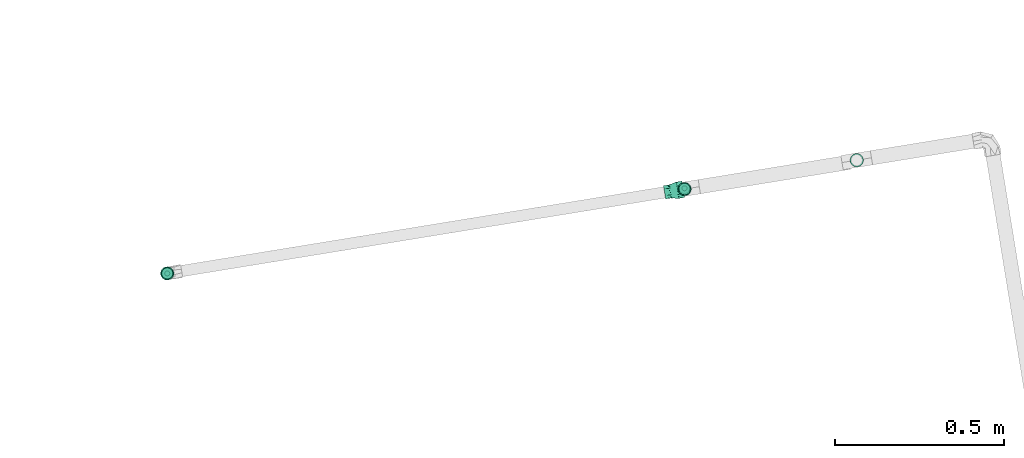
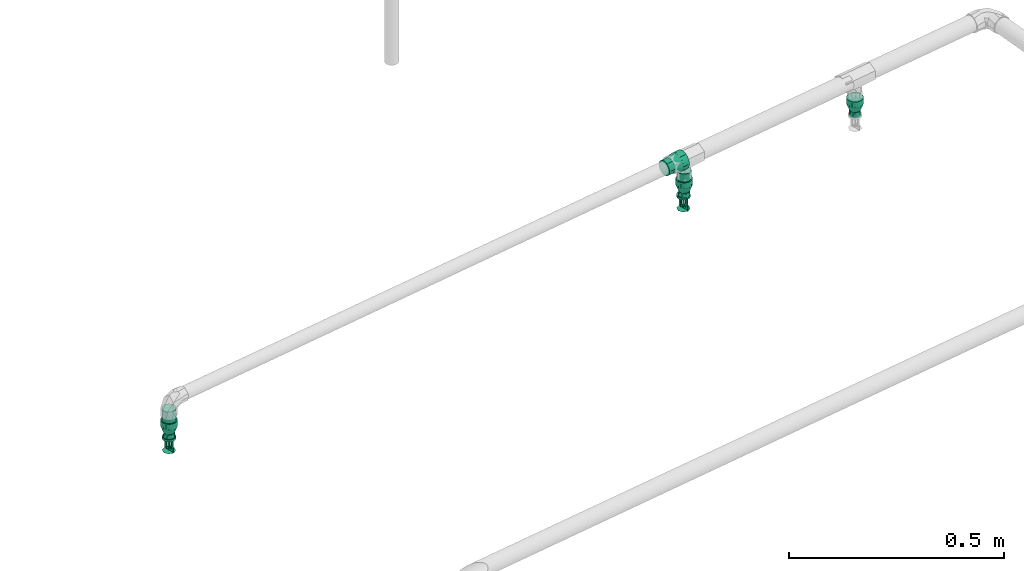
# One storey, part 32 of 46: 4 flow fittings, 2 flow segments, 2 flow terminals.
"""IFC2X3 building model written with IfcOpenShell, lengths in millimetres."""

from ifc_helpers import new_model, entity, si_unit, converted_unit, derived_unit, direction, frame, origin, origin_with_axes, origin_2d_with_axis, place, context, subcontext, project, spatial, circle, extrude, faceted_brep, source, transform, mapped, material, type_object, element, save


model = new_model("IFC2X3")

# Units and contexts
model_context = context("Model", 3, precision=0.01, world=origin(), true_north=direction((6.12323399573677e-17, 1.0)))
plan_context = context("Plan", 3, precision=1e-05, world=origin_with_axes())
body_context = subcontext(model_context, "Body", "Model", "MODEL_VIEW")
ifc_project = project(units=[converted_unit("PLANEANGLEUNIT", "DEGREE", entity("IfcPositiveLengthMeasure", 0.0174532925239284), si_unit("PLANEANGLEUNIT", "RADIAN"), dimensions=[0, 0, 0, 0, 0, 0, 0]), si_unit("AREAUNIT", "SQUARE_METRE"), si_unit("LENGTHUNIT", "METRE", prefix="MILLI"), si_unit("MASSUNIT", "GRAM", prefix="KILO"), si_unit("POWERUNIT", "WATT"), si_unit("PRESSUREUNIT", "PASCAL", prefix="KILO"), si_unit("FORCEUNIT", "NEWTON", prefix="KILO"), si_unit("ELECTRICVOLTAGEUNIT", "VOLT"), si_unit("ELECTRICCURRENTUNIT", "AMPERE"), si_unit("THERMODYNAMICTEMPERATUREUNIT", "DEGREE_CELSIUS"), si_unit("TIMEUNIT", "SECOND"), si_unit("VOLUMEUNIT", "CUBIC_METRE"), derived_unit("LINEARVELOCITYUNIT", [(si_unit("LENGTHUNIT", "METRE"), 1), (si_unit("TIMEUNIT", "SECOND"), -1)]), derived_unit("VOLUMETRICFLOWRATEUNIT", [(si_unit("VOLUMEUNIT", "CUBIC_METRE"), 1), (si_unit("TIMEUNIT", "SECOND"), -1)]), derived_unit("THERMALTRANSMITTANCEUNIT", [(si_unit("POWERUNIT", "WATT"), 1), (si_unit("THERMODYNAMICTEMPERATUREUNIT", "KELVIN"), -1), (si_unit("AREAUNIT", "SQUARE_METRE"), -1)]), derived_unit("SOUNDPRESSUREUNIT", [(si_unit("PRESSUREUNIT", "PASCAL"), 1)])], contexts=[model_context, plan_context])

# Site, building, storey
site_placement = place(None, frame((-3.09682673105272e-06, 1.93776733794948e-05, 0.0), z_axis=(0.0, 0.0, 1.0), x_axis=(-0.160806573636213, 0.986985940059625, 0.0)))
site = spatial("IfcSite", under=ifc_project, at=site_placement, Name="Default", CompositionType="ELEMENT")
building_placement = place(site_placement, frame((0.0, 0.0, 0.0), z_axis=(0.0, 0.0, 1.0), x_axis=(1.0, -2.77555756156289e-17, 0.0)))
building = spatial("IfcBuilding", under=site, at=building_placement, Name="Bygning (endres i Project Information)", CompositionType="ELEMENT")
storey_placement = place(building_placement, frame((0.0, 0.0, 51360.0000000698), z_axis=(0.0, 0.0, 1.0), x_axis=(1.0, -2.77555756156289e-17, 0.0)))
storey = spatial("IfcBuildingStorey", under=building, at=storey_placement, Name="H01-Nivå D+0,36", CompositionType="ELEMENT", Elevation=51360.0000000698)

# Flow fittings
ifc_material = material(Name="3320.001")
pipe_fitting_type_1 = type_object("IfcPipeFittingType", Name="RS_53_PIF_UN_Reducing-Socket-EN10241_MC_gen:RS_53_PIF_UN_Reducing-Socket-EN10241_MC_gen", PredefinedType="NOTDEFINED", material=ifc_material)
shared_shape_1 = source(origin(), body_context, "Body", "Brep", [
    faceted_brep([(0.0, 5.11167614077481, 19.0770350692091), (0.0, 9.87500000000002, 17.1040017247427), (0.0, 13.9653589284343, 13.9653589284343), (0.0, 17.1040017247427, 9.87499999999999), (0.0, 19.0770350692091, 5.11167614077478), (0.0, 19.75, 0.0), (0.0, 19.0770350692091, -5.1116761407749), (0.0, 17.1040017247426, -9.8750000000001), (0.0, 13.9653589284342, -13.9653589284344), (0.0, 9.87499999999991, -17.1040017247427), (0.0, 5.11167614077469, -19.0770350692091), (0.0, 0.0, -19.75), (0.0, -5.11167614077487, -19.0770350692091), (0.0, -9.87500000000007, -17.1040017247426), (0.0, -13.9653589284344, -13.9653589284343), (0.0, -17.1040017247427, -9.87499999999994), (0.0, -19.0770350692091, -5.11167614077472), (0.0, -19.75, 0.0), (0.0, -19.0770350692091, 5.11167614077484), (0.0, -17.1040017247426, 9.87500000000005), (0.0, -13.9653589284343, 13.9653589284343), (0.0, -9.87499999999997, 17.1040017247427), (0.0, -5.11167614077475, 19.0770350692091), (0.0, 0.0, 19.75), (17.0, -6.65118285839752, -18.277344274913), (17.0, -15.1289479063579, -12.6955675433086), (17.0, -16.8438814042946, -9.72538978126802), (17.0, -18.5588149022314, -6.7552120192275), (17.0, -9.87413131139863, -17.1045032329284), (17.0, -12.5015396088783, -14.9000353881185), (17.0, -19.1544074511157, -3.37760600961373), (17.0, -3.42823440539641, -19.4501853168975), (17.0, 3.43119786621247, -19.4496627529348), (17.0, 0.0014817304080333, -19.4499240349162), (17.0, -19.75, 0.0), (17.0, 6.65396758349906, -18.2763306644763), (17.0, 9.87673730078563, -17.1029985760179), (17.0, 18.5598439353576, -6.75238425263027), (17.0, 16.8453630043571, -9.7228232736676), (17.0, 15.1308820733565, -12.6932622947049), (17.0, 12.5038096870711, -14.8981304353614), (17.0, 19.75, 0.0), (17.0, 15.1308820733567, 12.6932622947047), (17.0, 16.8453630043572, 9.72282327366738), (17.0, 18.5598439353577, 6.75238425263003), (17.0, 9.87673730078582, 17.1029985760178), (17.0, 12.5038096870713, 14.8981304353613), (17.0, 3.43119786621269, 19.4496627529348), (17.0, 6.65396758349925, 18.2763306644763), (17.0, -3.4282344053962, 19.4501853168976), (17.0, 0.00148173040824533, 19.4499240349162), (17.0, -15.1289479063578, 12.6955675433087), (17.0, -6.65118285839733, 18.277344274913), (17.0, -9.87413131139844, 17.1045032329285), (17.0, -12.5015396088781, 14.9000353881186), (17.0, -19.1544074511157, 3.37760600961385), (17.0, -18.5588149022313, 6.75521201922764), (17.0, -16.8438814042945, 9.72538978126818), (34.0, 13.5000000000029, 0.0), (34.0, 12.6868795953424, -4.61444320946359), (34.0, -4.54589529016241, -12.4935366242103), (34.0, -2.34276817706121, -13.2951659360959), (34.0, 6.75195505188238, -11.6902139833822), (34.0, 0.00166747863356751, -13.2948718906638), (34.0, 2.34610313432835, -13.2945778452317), (34.0, 10.3432928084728, -8.67561489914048), (34.0, 8.54762393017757, -10.1829144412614), (34.0, 4.54902909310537, -12.492395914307), (34.0, 11.5150862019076, -6.64502905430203), (34.0, -6.74902240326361, -11.6919073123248), (34.0, -13.4999999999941, 0.0), (34.0, -13.0928608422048, -2.30881275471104), (34.0, -10.3411162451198, -8.6782091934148), (34.0, -8.54506932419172, -10.1850582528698), (34.0, -12.6857216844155, -4.61762550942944), (34.0, -11.5134189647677, -6.64791735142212), (34.0, -13.0928608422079, 2.30881275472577), (34.0, -12.6857216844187, 4.6176255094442), (34.0, 2.34610313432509, 13.2945778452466), (34.0, 4.54902909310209, 12.4923959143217), (34.0, -10.3411162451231, 8.67820919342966), (34.0, 0.00166747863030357, 13.2948718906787), (34.0, -6.74902240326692, 11.6919073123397), (34.0, -8.54506932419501, 10.1850582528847), (34.0, -11.5134189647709, 6.64791735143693), (34.0, -2.34276817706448, 13.2951659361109), (34.0, -4.5458952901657, 12.4935366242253), (34.0, 12.6868795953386, 4.61444320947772), (34.0, 11.5150862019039, 6.64502905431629), (34.0, 10.3432928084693, 8.67561489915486), (34.0, 6.7519550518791, 11.6902139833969), (34.0, 8.54762393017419, 10.1829144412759), (51.0, 3.49405710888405, -13.0399986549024), (51.0, 6.75000000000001, -11.6913429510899), (51.0, 9.5459415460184, -9.54594154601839), (51.0, 11.6913429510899, -6.74999999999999), (51.0, 13.0399986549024, -3.49405710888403), (51.0, 13.5, 0.0), (51.0, 13.0399986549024, 3.49405710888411), (51.0, 11.6913429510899, 6.75000000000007), (51.0, 9.54594154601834, 9.54594154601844), (51.0, 6.74999999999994, 11.69134295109), (51.0, 3.49405710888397, 13.0399986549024), (51.0, 0.0, 13.5), (51.0, -3.49405710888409, 13.0399986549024), (51.0, -6.75000000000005, 11.6913429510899), (51.0, -9.54594154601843, 9.54594154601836), (51.0, -11.6913429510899, 6.74999999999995), (51.0, -13.0399986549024, 3.49405710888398), (51.0, -13.5, 0.0), (51.0, -13.0399986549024, -3.49405710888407), (51.0, -11.6913429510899, -6.75000000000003), (51.0, -9.54594154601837, -9.54594154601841), (51.0, -6.74999999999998, -11.6913429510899), (51.0, -3.49405710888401, -13.0399986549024), (51.0, 0.0, -13.5)], [[[0, 1, 2, 3, 4, 5, 6, 7, 8, 9, 10, 11, 12, 13, 14, 15, 16, 17, 18, 19, 20, 21, 22, 23]], [[24, 13, 12]], [[15, 14, 25]], [[15, 25, 26, 27]], [[28, 29, 13]], [[16, 27, 30]], [[30, 17, 16]], [[15, 27, 16]], [[12, 31, 24]], [[25, 14, 29]], [[11, 32, 33, 31]], [[24, 28, 13]], [[13, 29, 14]], [[30, 34, 17]], [[32, 11, 10]], [[35, 9, 36]], [[7, 37, 38, 39]], [[9, 35, 10]], [[7, 6, 37]], [[8, 39, 40]], [[32, 10, 35]], [[7, 39, 8]], [[40, 36, 9]], [[6, 41, 37]], [[6, 5, 41]], [[11, 31, 12]], [[40, 9, 8]], [[41, 5, 4]], [[3, 2, 42]], [[3, 42, 43, 44]], [[45, 46, 1]], [[44, 41, 4]], [[0, 47, 48]], [[42, 2, 46]], [[23, 49, 50, 47]], [[1, 46, 2]], [[49, 23, 22]], [[19, 51, 20]], [[52, 21, 53]], [[3, 44, 4]], [[48, 45, 1]], [[54, 53, 21]], [[17, 34, 55]], [[21, 52, 22]], [[20, 51, 54]], [[49, 22, 52]], [[48, 1, 0]], [[17, 55, 18]], [[56, 19, 18]], [[18, 55, 56]], [[54, 21, 20]], [[57, 51, 19, 56]], [[23, 47, 0]], [[41, 58, 59]], [[60, 31, 61]], [[40, 62, 36]], [[63, 32, 64]], [[65, 39, 38]], [[64, 32, 35]], [[61, 33, 63]], [[37, 41, 59]], [[62, 40, 66]], [[40, 39, 66]], [[35, 36, 67]], [[65, 38, 68]], [[37, 68, 38]], [[64, 35, 67]], [[61, 31, 33]], [[69, 28, 24]], [[69, 24, 60]], [[70, 30, 71]], [[72, 29, 73]], [[30, 70, 34]], [[74, 27, 26]], [[68, 37, 59]], [[72, 25, 29]], [[27, 74, 71]], [[31, 60, 24]], [[29, 28, 73]], [[75, 26, 25]], [[67, 36, 62]], [[66, 39, 65]], [[27, 71, 30]], [[74, 26, 75]], [[73, 28, 69]], [[63, 33, 32]], [[75, 25, 72]], [[56, 76, 77]], [[48, 78, 79]], [[54, 51, 80]], [[81, 47, 50]], [[57, 56, 77]], [[52, 53, 82]], [[82, 53, 83]], [[55, 70, 76]], [[70, 55, 34]], [[84, 51, 57]], [[50, 85, 81]], [[56, 55, 76]], [[86, 49, 52]], [[83, 53, 54]], [[81, 78, 47]], [[48, 47, 78]], [[80, 51, 84]], [[49, 85, 50]], [[87, 44, 88]], [[87, 58, 41]], [[43, 42, 89]], [[57, 77, 84]], [[46, 45, 90]], [[85, 49, 86]], [[88, 44, 43]], [[54, 80, 83]], [[91, 42, 46]], [[52, 82, 86]], [[89, 42, 91]], [[87, 41, 44]], [[90, 45, 79]], [[46, 90, 91]], [[79, 45, 48]], [[43, 89, 88]], [[92, 93, 94, 95, 96, 97, 98, 99, 100, 101, 102, 103, 104, 105, 106, 107, 108, 109, 110, 111, 112, 113, 114, 115]], [[58, 97, 96]], [[95, 94, 65]], [[95, 65, 68, 59]], [[62, 66, 93]], [[59, 58, 96]], [[92, 64, 67]], [[65, 94, 66]], [[115, 61, 63, 64]], [[93, 66, 94]], [[67, 93, 92]], [[67, 62, 93]], [[95, 59, 96]], [[114, 61, 115]], [[111, 110, 74]], [[73, 113, 112]], [[109, 71, 110]], [[111, 74, 75, 72]], [[109, 70, 71]], [[60, 61, 114]], [[113, 69, 60]], [[111, 72, 112]], [[113, 60, 114]], [[112, 72, 73]], [[115, 64, 92]], [[71, 74, 110]], [[73, 69, 113]], [[86, 105, 104]], [[107, 106, 80]], [[107, 80, 84, 77]], [[82, 83, 105]], [[108, 77, 76]], [[76, 70, 109]], [[76, 109, 108]], [[104, 85, 86]], [[80, 106, 83]], [[103, 78, 81, 85]], [[91, 101, 100]], [[105, 83, 106]], [[86, 82, 105]], [[78, 103, 102]], [[79, 101, 90]], [[99, 87, 88, 89]], [[101, 79, 102]], [[99, 98, 87]], [[100, 89, 91]], [[78, 102, 79]], [[103, 85, 104]], [[99, 89, 100]], [[98, 58, 87]], [[107, 77, 108]], [[98, 97, 58]], [[91, 90, 101]]]),
])
for number, where, z_axis, x_axis in (
    (1, (1004777.14983251, -345724.575122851, 3404.0), (2.77555756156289e-17, 1.0, 0.0), (0.0, 0.0, -1.0)),
    (2, (1004779.64983251, -346239.575122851, 3404.0), (2.77555756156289e-17, 1.0, 0.0), (0.0, 0.0, -1.0)),
    (3, (1004777.14983251, -344178.065872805, 3404.0), (2.77555756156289e-17, 1.0, 0.0), (0.0, 0.0, -1.0)),
):
    element("IfcFlowFitting", number, at=place(storey_placement, frame(where, z_axis=z_axis, x_axis=x_axis)), inside=storey, type_object=pipe_fitting_type_1, material=ifc_material, Name="RS_53_PIF_UN_Reducing-Socket-EN10241_MC_gen:RS_53_PIF_UN_Reducing-Socket-EN10241_MC_gen", ObjectType="RS_53_PIF_UN_Reducing-Socket-EN10241_MC_gen:RS_53_PIF_UN_Reducing-Socket-EN10241_MC_gen", context=body_context, shape_type="MappedRepresentation", body=[
        mapped(shared_shape_1, transform((0.0, 0.0, 0.0), scale=1.0)),
    ])
pipe_fitting_type_2 = type_object("IfcPipeFittingType", Name="RS_53_PIF_UN_Reducing-Socket-EN10241_MC_gen:RS_53_PIF_UN_Reducing-Socket-EN10241_MC_gen", PredefinedType="NOTDEFINED", material=ifc_material)
shared_shape_2 = source(origin(), body_context, "Body", "Brep", [
    faceted_brep([(0.0, 5.11167614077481, 19.0770350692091), (0.0, 9.87500000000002, 17.1040017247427), (0.0, 13.9653589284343, 13.9653589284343), (0.0, 17.1040017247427, 9.87499999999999), (0.0, 19.0770350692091, 5.11167614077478), (0.0, 19.75, 0.0), (0.0, 19.0770350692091, -5.1116761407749), (0.0, 17.1040017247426, -9.8750000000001), (0.0, 13.9653589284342, -13.9653589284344), (0.0, 9.87499999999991, -17.1040017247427), (0.0, 5.11167614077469, -19.0770350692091), (0.0, 0.0, -19.75), (0.0, -5.11167614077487, -19.0770350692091), (0.0, -9.87500000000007, -17.1040017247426), (0.0, -13.9653589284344, -13.9653589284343), (0.0, -17.1040017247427, -9.87499999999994), (0.0, -19.0770350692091, -5.11167614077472), (0.0, -19.75, 0.0), (0.0, -19.0770350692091, 5.11167614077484), (0.0, -17.1040017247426, 9.87500000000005), (0.0, -13.9653589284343, 13.9653589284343), (0.0, -9.87499999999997, 17.1040017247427), (0.0, -5.11167614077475, 19.0770350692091), (0.0, 0.0, 19.75), (18.6666666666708, -6.65147917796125, -18.2772448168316), (18.6666666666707, -15.1290644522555, -12.6954286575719), (18.6666666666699, -16.8439551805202, -9.72527774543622), (18.6666666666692, -18.5588459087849, -6.75512683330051), (18.6666666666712, -9.87436684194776, -17.1043672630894), (18.6666666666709, -12.5017156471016, -14.8998979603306), (18.6666666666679, -19.1544229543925, -3.37756341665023), (18.6666666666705, -3.42859151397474, -19.4501223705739), (18.6666666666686, 3.43075149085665, -19.4497414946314), (18.6666666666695, 0.00107998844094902, -19.4499319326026), (18.6666666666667, -19.75, 0.0), (18.6666666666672, 6.65350888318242, -18.2765060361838), (18.6666666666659, 9.87626627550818, -17.1032705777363), (18.6666666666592, 18.5595959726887, -6.75306577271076), (18.6666666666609, 16.8450350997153, -9.72340711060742), (18.6666666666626, 15.1304742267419, -12.6937484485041), (18.6666666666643, 12.503370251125, -14.8985095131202), (18.6666666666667, 19.75, 0.0), (18.6666666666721, 15.1304742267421, 12.6937484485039), (18.6666666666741, 16.8450350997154, 9.72340711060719), (18.6666666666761, 18.5595959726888, 6.7530657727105), (18.6666666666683, 9.8762662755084, 17.1032705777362), (18.6666666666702, 12.5033702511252, 14.89850951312), (18.6666666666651, 3.43075149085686, 19.4497414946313), (18.6666666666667, 6.65350888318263, 18.2765060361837), (18.6666666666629, -3.42859151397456, 19.450122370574), (18.666666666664, 0.00107998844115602, 19.4499319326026), (18.6666666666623, -12.5017156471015, 14.8998979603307), (18.6666666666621, -9.87436684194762, 17.1043672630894), (18.6666666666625, -6.65147917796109, 18.2772448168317), (18.6666666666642, -18.5588459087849, 6.75512683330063), (18.6666666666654, -19.1544229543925, 3.37756341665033), (18.6666666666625, -15.1290644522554, 12.695428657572), (18.6666666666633, -16.8439551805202, 9.72527774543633), (37.3333333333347, -23.7125607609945, -4.46565710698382), (37.3333333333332, 4.25560674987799, -24.127573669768), (37.3333333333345, 0.00110376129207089, -24.1277682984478), (37.3333333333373, -15.5085607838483, -18.483337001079), (37.3333333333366, -20.8950763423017, -12.0642027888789), (37.3333333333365, -8.25137606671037, -22.6729794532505), (37.3333333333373, -12.2493529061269, -21.2179959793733), (37.3333333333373, -18.7677686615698, -15.7486780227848), (37.3333333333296, 12.2512941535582, -21.2168751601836), (37.3333333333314, 8.2534504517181, -22.6722244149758), (37.3333333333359, -23.0223840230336, -8.37972755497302), (37.3333333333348, -23.7611920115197, -4.18986377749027), (37.3333333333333, -24.4999999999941, 0.0), (37.3333333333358, -4.25339922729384, -24.1279629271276), (37.3333333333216, 23.0231506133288, -8.37762113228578), (37.3333333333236, 20.8961800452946, -12.0622909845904), (37.3333333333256, 18.7692094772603, -15.7469608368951), (37.3333333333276, 15.5102518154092, -18.4819179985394), (37.3333333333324, 24.5000000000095, 0.0), (37.3333333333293, -18.767768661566, 15.7486780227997), (37.3333333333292, -15.5085607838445, 18.4833370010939), (37.3333333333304, -4.25339922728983, 24.1279629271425), (37.3333333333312, -23.0223840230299, 8.37972755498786), (37.3333333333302, -20.8950763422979, 12.0642027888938), (37.3333333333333, 4.2556067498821, 24.1275736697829), (37.3333333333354, 8.25345045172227, 22.6722244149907), (37.3333333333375, 12.2512941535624, 21.2168751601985), (37.3333333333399, 15.5102518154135, 18.4819179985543), (37.3333333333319, -23.7611920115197, 4.18986377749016), (37.3333333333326, -23.7125607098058, 4.46565739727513), (37.3333333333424, 18.7692094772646, 15.74696083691), (37.3333333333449, 20.896180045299, 12.0622909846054), (37.3333333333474, 23.0231506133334, 8.37762113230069), (37.3333333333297, -8.25137606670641, 22.6729794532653), (37.333333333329, -12.249352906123, 21.2179959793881), (37.3333333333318, 0.00110376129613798, 24.1277682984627), (56.0, 0.0, -24.5), (56.0, 6.34106660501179, -23.6651827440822), (56.0, 12.25, -21.2176223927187), (56.0, 17.3241161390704, -17.3241161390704), (56.0, 21.2176223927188, -12.25), (56.0, 23.6651827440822, -6.34106660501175), (56.0, 24.5, 0.0), (56.0, 23.6651827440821, 6.34106660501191), (56.0, 21.2176223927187, 12.2500000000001), (56.0, 17.3241161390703, 17.3241161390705), (56.0, 12.2499999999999, 21.2176223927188), (56.0, 6.34106660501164, 23.6651827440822), (56.0, 0.0, 24.5), (56.0, -6.34106660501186, 23.6651827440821), (56.0, -12.2500000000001, 21.2176223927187), (56.0, -17.3241161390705, 17.3241161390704), (56.0, -21.2176223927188, 12.2499999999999), (56.0, -23.6651827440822, 6.34106660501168), (56.0, -24.5, 0.0), (56.0, -23.6651827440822, -6.34106660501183), (56.0, -21.2176223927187, -12.2500000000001), (56.0, -17.3241161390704, -17.3241161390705), (56.0, -12.25, -21.2176223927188), (56.0, -6.34106660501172, -23.6651827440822)], [[[0, 1, 2, 3, 4, 5, 6, 7, 8, 9, 10, 11, 12, 13, 14, 15, 16, 17, 18, 19, 20, 21, 22, 23]], [[24, 13, 12]], [[15, 14, 25]], [[15, 25, 26, 27]], [[28, 29, 13]], [[16, 27, 30]], [[30, 17, 16]], [[15, 27, 16]], [[12, 31, 24]], [[25, 14, 29]], [[11, 32, 33, 31]], [[24, 28, 13]], [[13, 29, 14]], [[30, 34, 17]], [[32, 11, 10]], [[35, 9, 36]], [[7, 37, 38, 39]], [[9, 35, 10]], [[7, 6, 37]], [[8, 39, 40]], [[32, 10, 35]], [[7, 39, 8]], [[40, 36, 9]], [[6, 41, 37]], [[6, 5, 41]], [[11, 31, 12]], [[40, 9, 8]], [[41, 5, 4]], [[3, 2, 42]], [[3, 42, 43, 44]], [[45, 46, 1]], [[44, 41, 4]], [[0, 47, 48]], [[42, 2, 46]], [[23, 49, 50, 47]], [[1, 46, 2]], [[23, 22, 49]], [[51, 52, 21]], [[48, 1, 0]], [[21, 52, 53]], [[19, 18, 54]], [[21, 53, 22]], [[23, 47, 0]], [[3, 44, 4]], [[55, 17, 34]], [[53, 49, 22]], [[19, 56, 20]], [[20, 56, 51]], [[51, 21, 20]], [[19, 54, 57, 56]], [[17, 55, 18]], [[48, 45, 1]], [[55, 54, 18]], [[27, 58, 30]], [[33, 59, 60]], [[61, 25, 29]], [[62, 27, 26]], [[28, 63, 64]], [[25, 61, 65]], [[35, 66, 67]], [[27, 62, 68]], [[36, 66, 35]], [[30, 58, 69, 70]], [[26, 65, 62]], [[29, 64, 61]], [[29, 28, 64]], [[26, 25, 65]], [[24, 71, 63]], [[60, 71, 31]], [[59, 33, 32]], [[67, 59, 32]], [[37, 72, 38]], [[73, 74, 39]], [[75, 36, 40]], [[75, 66, 36]], [[76, 37, 41]], [[27, 68, 58]], [[38, 72, 73]], [[63, 28, 24]], [[40, 74, 75]], [[76, 72, 37]], [[30, 70, 34]], [[67, 32, 35]], [[24, 31, 71]], [[73, 39, 38]], [[60, 31, 33]], [[39, 74, 40]], [[41, 44, 76]], [[56, 77, 78]], [[79, 49, 53]], [[54, 80, 81]], [[47, 82, 83]], [[45, 84, 85]], [[55, 70, 86, 87]], [[42, 88, 89]], [[87, 54, 55]], [[76, 44, 90]], [[43, 89, 90]], [[85, 88, 46]], [[52, 91, 53]], [[77, 57, 81]], [[48, 83, 84]], [[92, 51, 78]], [[49, 79, 93]], [[92, 91, 52]], [[48, 84, 45]], [[57, 54, 81]], [[50, 82, 47]], [[51, 56, 78]], [[70, 55, 34]], [[45, 85, 46]], [[53, 91, 79]], [[42, 89, 43]], [[57, 77, 56]], [[54, 87, 80]], [[47, 83, 48]], [[92, 52, 51]], [[49, 93, 50]], [[43, 90, 44]], [[50, 93, 82]], [[46, 88, 42]], [[94, 95, 96, 97, 98, 99, 100, 101, 102, 103, 104, 105, 106, 107, 108, 109, 110, 111, 112, 113, 114, 115, 116, 117]], [[76, 100, 99]], [[98, 97, 74]], [[98, 74, 73, 72]], [[66, 75, 96]], [[72, 76, 99]], [[95, 59, 67]], [[74, 97, 75]], [[94, 71, 60, 59]], [[96, 75, 97]], [[71, 94, 117]], [[94, 59, 95]], [[112, 69, 113]], [[63, 116, 64]], [[67, 96, 95]], [[61, 116, 115]], [[70, 69, 112]], [[98, 72, 99]], [[116, 63, 117]], [[115, 65, 61]], [[71, 117, 63]], [[67, 66, 96]], [[114, 65, 115]], [[68, 114, 113]], [[113, 69, 58, 68]], [[61, 64, 116]], [[62, 65, 114, 68]], [[91, 108, 107]], [[110, 109, 77]], [[110, 77, 81, 80]], [[92, 78, 108]], [[111, 80, 87, 86]], [[86, 112, 111]], [[110, 80, 111]], [[107, 79, 91]], [[77, 109, 78]], [[106, 82, 93, 79]], [[91, 92, 108]], [[108, 78, 109]], [[86, 70, 112]], [[82, 106, 105]], [[83, 104, 84]], [[102, 90, 89, 88]], [[104, 83, 105]], [[102, 101, 90]], [[103, 88, 85]], [[82, 105, 83]], [[102, 88, 103]], [[85, 84, 104]], [[101, 76, 90]], [[101, 100, 76]], [[106, 79, 107]], [[85, 104, 103]]]),
])
flow_fitting_placement = place(storey_placement, frame((1004777.14983251, -345664.641789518, 3458.8000258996), z_axis=(5.80788416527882e-25, 2.09251079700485e-08, 1.0), x_axis=(0.0, -1.0, 2.09251079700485e-08)))
element("IfcFlowFitting", 4, at=flow_fitting_placement, inside=storey, type_object=pipe_fitting_type_2, material=ifc_material, Name="RS_53_PIF_UN_Reducing-Socket-EN10241_MC_gen:RS_53_PIF_UN_Reducing-Socket-EN10241_MC_gen", ObjectType="RS_53_PIF_UN_Reducing-Socket-EN10241_MC_gen:RS_53_PIF_UN_Reducing-Socket-EN10241_MC_gen", context=body_context, shape_type="MappedRepresentation", body=[
    mapped(shared_shape_2, transform((0.0, 0.0, 0.0), scale=1.0)),
])

# Flow terminals
fire_suppression_terminal_type = type_object("IfcFireSuppressionTerminalType", Name="SSP K80 HIMLING:SP-15-K80-68DGR-RS", PredefinedType="NOTDEFINED", material=ifc_material)
shared_shape_3 = source(origin(), body_context, "Body", "Brep", [
    faceted_brep([(-2.5, 0.0, 57.0), (0.0, -2.5, 57.0), (2.5, 0.0, 57.0), (0.0, 2.5, 57.0), (0.0, 2.5, 53.0), (2.5, 0.0, 53.0), (0.0, -2.5, 53.0), (-2.5, 0.0, 53.0)], [[[0, 1, 2, 3]], [[4, 5, 6, 7]], [[3, 4, 7, 0]], [[2, 5, 4, 3]], [[1, 6, 5, 2]], [[0, 7, 6, 1]]]),
    faceted_brep([(1.0, 15.5, 51.0), (1.0, -15.5, 51.0), (1.0, -15.5, 19.0), (1.0, -10.5, 19.0), (1.0, -10.5, 45.0), (1.0, 10.5, 45.0), (1.0, 10.5, 19.0), (1.0, 15.5, 19.0), (-1.0, 15.5, 51.0), (-1.0, 15.5, 19.0), (-1.0, 10.5, 19.0), (-1.0, 10.5, 45.0), (-1.0, -10.5, 45.0), (-1.0, -10.5, 19.0), (-1.0, -15.5, 19.0), (-1.0, -15.5, 51.0)], [[[0, 1, 2, 3, 4, 5, 6, 7]], [[8, 9, 10, 11, 12, 13, 14, 15]], [[7, 9, 8, 0]], [[6, 10, 9, 7]], [[5, 11, 10, 6]], [[4, 12, 11, 5]], [[3, 13, 12, 4]], [[2, 14, 13, 3]], [[1, 15, 14, 2]], [[0, 8, 15, 1]]]),
    faceted_brep([(-8.5, -1.0, 45.0), (-8.5, -1.0, 19.0), (-5.5, -1.0, 19.0), (-5.5, -1.0, 42.0), (5.5, -1.0, 42.0), (5.5, -1.0, 19.0), (8.5, -1.0, 19.0), (8.5, -1.0, 45.0), (-8.5, 1.0, 45.0), (8.5, 1.0, 45.0), (8.5, 1.0, 19.0), (5.5, 1.0, 19.0), (5.5, 1.0, 42.0), (-5.5, 1.0, 42.0), (-5.5, 1.0, 19.0), (-8.5, 1.0, 19.0)], [[[0, 1, 2, 3, 4, 5, 6, 7]], [[8, 9, 10, 11, 12, 13, 14, 15]], [[7, 9, 8, 0]], [[6, 10, 9, 7]], [[5, 11, 10, 6]], [[4, 12, 11, 5]], [[3, 13, 12, 4]], [[2, 14, 13, 3]], [[1, 15, 14, 2]], [[0, 8, 15, 1]]]),
    faceted_brep([(16.0, 0.0, 53.0), (11.3137084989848, 11.3137084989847, 53.0), (0.0, 16.0, 53.0), (-11.3137084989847, 11.3137084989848, 53.0), (-16.0, 0.0, 53.0), (-11.3137084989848, -11.3137084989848, 53.0), (0.0, -16.0, 53.0), (11.3137084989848, -11.3137084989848, 53.0), (2.5, 0.0, 51.0), (0.0, -2.5, 51.0), (-2.5, 0.0, 51.0), (0.0, 2.5, 51.0)], [[[0, 1, 2, 3, 4, 5, 6, 7]], [[8, 9, 10, 11]], [[2, 11, 3]], [[10, 3, 11]], [[10, 4, 3]], [[1, 8, 11]], [[8, 1, 0]], [[2, 1, 11]], [[6, 9, 7]], [[8, 7, 9]], [[8, 0, 7]], [[5, 10, 9]], [[10, 5, 4]], [[6, 5, 9]]]),
    faceted_brep([(11.3137084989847, 11.3137084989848, 19.0), (8.0, 13.8564064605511, 19.0), (4.14110472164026, 15.4548132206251, 19.0), (0.0, 16.0, 19.0), (-4.1411047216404, 15.4548132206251, 19.0), (-8.0, 13.856406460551, 19.0), (-11.3137084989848, 11.3137084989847, 19.0), (-13.8564064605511, 8.0, 19.0), (-15.4548132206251, 4.14110472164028, 19.0), (-16.0, 0.0, 19.0), (-15.4548132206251, -4.14110472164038, 19.0), (-13.856406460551, -8.0, 19.0), (-11.3137084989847, -11.3137084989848, 19.0), (-8.0, -13.856406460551, 19.0), (-4.14110472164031, -15.4548132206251, 19.0), (0.0, -16.0, 19.0), (4.14110472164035, -15.4548132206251, 19.0), (8.0, -13.856406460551, 19.0), (11.3137084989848, -11.3137084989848, 19.0), (13.856406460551, -8.0, 19.0), (15.4548132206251, -4.14110472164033, 19.0), (16.0, 0.0, 19.0), (15.4548132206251, 4.14110472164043, 19.0), (13.856406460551, 8.0, 19.0), (0.0, -16.0, 13.0), (-4.14110472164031, -15.4548132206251, 13.0), (-8.0, -13.856406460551, 13.0), (-11.3137084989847, -11.3137084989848, 13.0), (-13.856406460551, -8.0, 13.0), (-15.4548132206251, -4.14110472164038, 13.0), (-16.0, 0.0, 13.0), (-15.4548132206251, 4.14110472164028, 13.0), (-13.8564064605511, 8.0, 13.0), (-11.3137084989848, 11.3137084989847, 13.0), (-8.0, 13.856406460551, 13.0), (-4.1411047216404, 15.4548132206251, 13.0), (0.0, 16.0, 13.0), (4.14110472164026, 15.4548132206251, 13.0), (8.0, 13.8564064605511, 13.0), (11.3137084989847, 11.3137084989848, 13.0), (13.856406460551, 8.0, 13.0), (15.4548132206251, 4.14110472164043, 13.0), (16.0, 0.0, 13.0), (15.4548132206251, -4.14110472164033, 13.0), (13.856406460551, -8.0, 13.0), (11.3137084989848, -11.3137084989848, 13.0), (8.0, -13.856406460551, 13.0), (4.14110472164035, -15.4548132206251, 13.0)], [[[0, 1, 2, 3, 4, 5, 6, 7, 8, 9, 10, 11, 12, 13, 14, 15, 16, 17, 18, 19, 20, 21, 22, 23]], [[24, 25, 26, 27, 28, 29, 30, 31, 32, 33, 34, 35, 36, 37, 38, 39, 40, 41, 42, 43, 44, 45, 46, 47]], [[30, 9, 8, 31]], [[31, 8, 7, 32]], [[34, 33, 6, 5]], [[6, 33, 32, 7]], [[35, 34, 5, 4]], [[35, 4, 3, 36]], [[36, 3, 2, 37]], [[37, 2, 1, 38]], [[40, 39, 0, 23]], [[0, 39, 38, 1]], [[41, 40, 23, 22]], [[41, 22, 21, 42]], [[42, 21, 20, 43]], [[43, 20, 19, 44]], [[46, 45, 18, 17]], [[18, 45, 44, 19]], [[47, 46, 17, 16]], [[47, 16, 15, 24]], [[24, 15, 14, 25]], [[25, 14, 13, 26]], [[28, 27, 12, 11]], [[12, 27, 26, 13]], [[29, 28, 11, 10]], [[29, 10, 9, 30]]]),
    faceted_brep([(-2.5, 0.0, 51.0), (0.0, -2.5, 51.0), (2.5, 0.0, 51.0), (0.0, 2.5, 51.0), (0.0, 2.5, 19.0), (2.5, 0.0, 19.0), (0.0, -2.5, 19.0), (-2.5, 0.0, 19.0)], [[[0, 1, 2, 3]], [[4, 5, 6, 7]], [[3, 4, 7, 0]], [[2, 5, 4, 3]], [[1, 6, 5, 2]], [[0, 7, 6, 1]]]),
    faceted_brep([(3.75000000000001, 6.49519052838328, 13.0), (1.94114283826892, 7.24444369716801, 13.0), (0.0, 7.5, 13.0), (-1.94114283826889, 7.24444369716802, 13.0), (-3.74999999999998, 6.4951905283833, 13.0), (-5.30330085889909, 5.30330085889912, 13.0), (-6.49519052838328, 3.75000000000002, 13.0), (-7.244443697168, 1.94114283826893, 13.0), (-7.5, 0.0, 13.0), (-7.24444369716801, -1.94114283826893, 13.0), (-6.49519052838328, -3.75000000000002, 13.0), (-5.3033008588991, -5.30330085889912, 13.0), (-3.74999999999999, -6.4951905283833, 13.0), (-1.94114283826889, -7.24444369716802, 13.0), (0.0, -7.5, 13.0), (1.94114283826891, -7.24444369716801, 13.0), (3.75000000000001, -6.49519052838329, 13.0), (5.30330085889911, -5.3033008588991, 13.0), (6.49519052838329, -3.75, 13.0), (7.24444369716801, -1.9411428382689, 13.0), (7.5, 0.0, 13.0), (7.24444369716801, 1.9411428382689, 13.0), (6.49519052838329, 3.75, 13.0), (5.30330085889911, 5.3033008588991, 13.0), (5.30330085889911, -5.3033008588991, 0.0), (3.75000000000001, -6.49519052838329, 0.0), (1.94114283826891, -7.24444369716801, 0.0), (0.0, -7.5, 0.0), (-1.94114283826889, -7.24444369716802, 0.0), (-3.74999999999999, -6.4951905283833, 0.0), (-5.3033008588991, -5.30330085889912, 0.0), (-6.49519052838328, -3.75000000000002, 0.0), (-7.24444369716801, -1.94114283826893, 0.0), (-7.5, 0.0, 0.0), (-7.244443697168, 1.94114283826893, 0.0), (-6.49519052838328, 3.75000000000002, 0.0), (-5.30330085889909, 5.30330085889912, 0.0), (-3.74999999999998, 6.4951905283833, 0.0), (-1.94114283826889, 7.24444369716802, 0.0), (0.0, 7.5, 0.0), (1.94114283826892, 7.24444369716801, 0.0), (3.75000000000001, 6.49519052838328, 0.0), (5.30330085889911, 5.3033008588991, 0.0), (6.49519052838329, 3.75, 0.0), (7.24444369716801, 1.9411428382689, 0.0), (7.5, 0.0, 0.0), (7.24444369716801, -1.9411428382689, 0.0), (6.49519052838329, -3.75, 0.0)], [[[0, 1, 2, 3, 4, 5, 6, 7, 8, 9, 10, 11, 12, 13, 14, 15, 16, 17, 18, 19, 20, 21, 22, 23]], [[24, 25, 26, 27, 28, 29, 30, 31, 32, 33, 34, 35, 36, 37, 38, 39, 40, 41, 42, 43, 44, 45, 46, 47]], [[33, 8, 7, 34]], [[34, 7, 6, 35]], [[37, 36, 5, 4]], [[5, 36, 35, 6]], [[38, 37, 4, 3]], [[38, 3, 2, 39]], [[39, 2, 1, 40]], [[40, 1, 0, 41]], [[43, 42, 23, 22]], [[23, 42, 41, 0]], [[44, 43, 22, 21]], [[44, 21, 20, 45]], [[45, 20, 19, 46]], [[46, 19, 18, 47]], [[25, 24, 17, 16]], [[17, 24, 47, 18]], [[26, 25, 16, 15]], [[26, 15, 14, 27]], [[27, 14, 13, 28]], [[28, 13, 12, 29]], [[31, 30, 11, 10]], [[11, 30, 29, 12]], [[32, 31, 10, 9]], [[32, 9, 8, 33]]]),
])
for number, where, z_axis, x_axis in (
    (5, (1004779.64983251, -345724.575122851, 3370.0), (0.0, 0.0, -1.0), (2.77555756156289e-17, 1.0, 0.0)),
    (6, (1004777.14983251, -344178.065872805, 3370.0), (0.0, 0.0, -1.0), (2.77555756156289e-17, 1.0, 0.0)),
):
    element("IfcFlowTerminal", number, at=place(storey_placement, frame(where, z_axis=z_axis, x_axis=x_axis)), inside=storey, type_object=fire_suppression_terminal_type, material=ifc_material, Name="SSP K80 HIMLING:SP-15-K80-68DGR-RS", ObjectType="SSP K80 HIMLING:SP-15-K80-68DGR-RS", context=body_context, shape_type="MappedRepresentation", body=[
        mapped(shared_shape_3, transform((0.0, 0.0, 0.0), scale=1.0)),
    ])

# Flow segments
pipe_segment_type = type_object("IfcPipeSegmentType", Name="Pipe Types:Stålrør sveist og gjenget", PredefinedType="NOTDEFINED", material=ifc_material)
flow_segment_1_placement = place(storey_placement, frame((0.0, 0.0, 0.0), z_axis=(0.0, 0.0, 1.0), x_axis=(1.0, -2.77555756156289e-17, 0.0)))
element("IfcFlowSegment", 7, at=flow_segment_1_placement, inside=storey, type_object=pipe_segment_type, Name="Pipe Types:Stålrør sveist og gjenget", ObjectType="Pipe Types:Stålrør sveist og gjenget", context=body_context, shape_type="SweptSolid", body=[
    extrude(circle(Radius=16.8500004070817, at=origin_2d_with_axis()), frame((1004777.14983251, -345724.575122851, 3387.0)), (0.0, 0.0, 1.0), 39.9000262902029),
])
flow_segment_2_placement = place(storey_placement, frame((0.0, 0.0, 0.0), z_axis=(0.0, 0.0, 1.0), x_axis=(1.0, -2.77555756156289e-17, 0.0)))
element("IfcFlowSegment", 8, at=flow_segment_2_placement, inside=storey, type_object=pipe_segment_type, Name="Pipe Types:Stålrør sveist og gjenget", ObjectType="Pipe Types:Stålrør sveist og gjenget", context=body_context, shape_type="SweptSolid", body=[
    extrude(circle(Radius=16.8500004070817, at=origin_2d_with_axis()), frame((1004777.14983251, -344178.065872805, 3387.0)), (0.0, 0.0, 1.0), 50.0499952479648),
])

save(model, "model.ifc")
